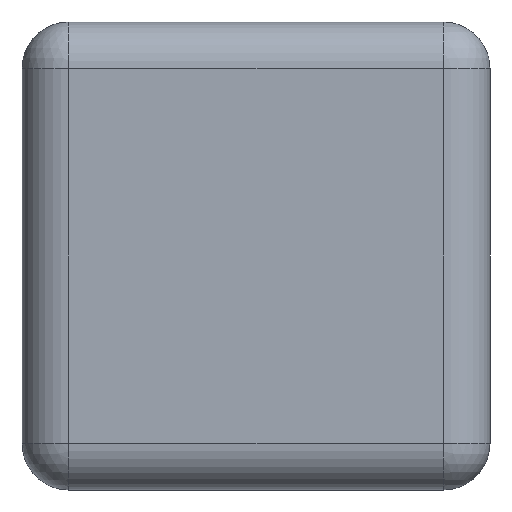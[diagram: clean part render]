
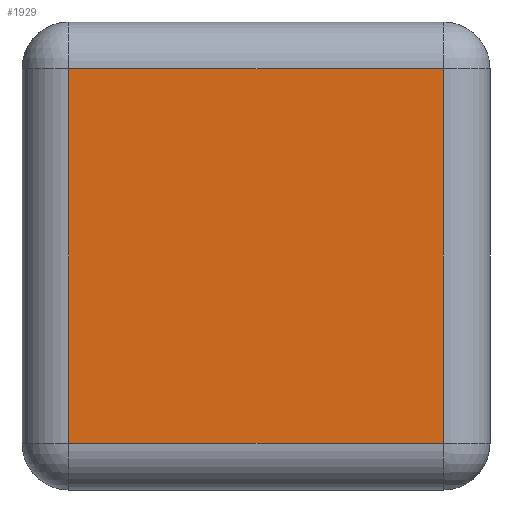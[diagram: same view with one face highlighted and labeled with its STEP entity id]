
A CAD part, left-side view. The second image highlights one B-rep face of the part: STEP entity #1929.
In plain terms, the highlighted planar face has unit normal (-1, 0, 0).
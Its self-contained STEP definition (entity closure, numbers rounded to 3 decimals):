
#1929 = ADVANCED_FACE('',(#1930),#1944,.T.);
#1930 = FACE_BOUND('',#1931,.T.);
#1931 = EDGE_LOOP('',(#1932,#1967,#1995,#2023));
#1932 = ORIENTED_EDGE('',*,*,#1933,.T.);
#1933 = EDGE_CURVE('',#1934,#1936,#1938,.T.);
#1934 = VERTEX_POINT('',#1935);
#1935 = CARTESIAN_POINT('',(-0.5,0.2,0.486));
#1936 = VERTEX_POINT('',#1937);
#1937 = CARTESIAN_POINT('',(-0.5,0.2,0.086));
#1938 = SURFACE_CURVE('',#1939,(#1943,#1955),.PCURVE_S1.);
#1939 = LINE('',#1940,#1941);
#1940 = CARTESIAN_POINT('',(-0.5,0.2,0.036));
#1941 = VECTOR('',#1942,1.);
#1942 = DIRECTION('',(0.,0.,-1.));
#1943 = PCURVE('',#1944,#1949);
#1944 = PLANE('',#1945);
#1945 = AXIS2_PLACEMENT_3D('',#1946,#1947,#1948);
#1946 = CARTESIAN_POINT('',(-0.5,-0.25,0.036));
#1947 = DIRECTION('',(-1.,0.,0.));
#1948 = DIRECTION('',(0.,0.,-1.));
#1949 = DEFINITIONAL_REPRESENTATION('',(#1950),#1954);
#1950 = LINE('',#1951,#1952);
#1951 = CARTESIAN_POINT('',(0.,-0.45));
#1952 = VECTOR('',#1953,1.);
#1953 = DIRECTION('',(1.,0.));
#1954 = ( GEOMETRIC_REPRESENTATION_CONTEXT(2) 
PARAMETRIC_REPRESENTATION_CONTEXT() REPRESENTATION_CONTEXT('2D SPACE',''
  ) );
#1955 = PCURVE('',#1956,#1961);
#1956 = CYLINDRICAL_SURFACE('',#1957,0.05);
#1957 = AXIS2_PLACEMENT_3D('',#1958,#1959,#1960);
#1958 = CARTESIAN_POINT('',(-0.45,0.2,0.536));
#1959 = DIRECTION('',(0.,0.,-1.));
#1960 = DIRECTION('',(1.,0.,0.));
#1961 = DEFINITIONAL_REPRESENTATION('',(#1962),#1966);
#1962 = LINE('',#1963,#1964);
#1963 = CARTESIAN_POINT('',(3.142,0.5));
#1964 = VECTOR('',#1965,1.);
#1965 = DIRECTION('',(0.,1.));
#1966 = ( GEOMETRIC_REPRESENTATION_CONTEXT(2) 
PARAMETRIC_REPRESENTATION_CONTEXT() REPRESENTATION_CONTEXT('2D SPACE',''
  ) );
#1967 = ORIENTED_EDGE('',*,*,#1968,.T.);
#1968 = EDGE_CURVE('',#1936,#1969,#1971,.T.);
#1969 = VERTEX_POINT('',#1970);
#1970 = CARTESIAN_POINT('',(-0.5,-0.2,0.086));
#1971 = SURFACE_CURVE('',#1972,(#1976,#1983),.PCURVE_S1.);
#1972 = LINE('',#1973,#1974);
#1973 = CARTESIAN_POINT('',(-0.5,-0.25,0.086));
#1974 = VECTOR('',#1975,1.);
#1975 = DIRECTION('',(0.,-1.,0.));
#1976 = PCURVE('',#1944,#1977);
#1977 = DEFINITIONAL_REPRESENTATION('',(#1978),#1982);
#1978 = LINE('',#1979,#1980);
#1979 = CARTESIAN_POINT('',(-0.05,0.));
#1980 = VECTOR('',#1981,1.);
#1981 = DIRECTION('',(0.,1.));
#1982 = ( GEOMETRIC_REPRESENTATION_CONTEXT(2) 
PARAMETRIC_REPRESENTATION_CONTEXT() REPRESENTATION_CONTEXT('2D SPACE',''
  ) );
#1983 = PCURVE('',#1984,#1989);
#1984 = CYLINDRICAL_SURFACE('',#1985,0.05);
#1985 = AXIS2_PLACEMENT_3D('',#1986,#1987,#1988);
#1986 = CARTESIAN_POINT('',(-0.45,-0.25,0.086));
#1987 = DIRECTION('',(0.,1.,0.));
#1988 = DIRECTION('',(-1.,0.,0.));
#1989 = DEFINITIONAL_REPRESENTATION('',(#1990),#1994);
#1990 = LINE('',#1991,#1992);
#1991 = CARTESIAN_POINT('',(6.283,0.));
#1992 = VECTOR('',#1993,1.);
#1993 = DIRECTION('',(0.,-1.));
#1994 = ( GEOMETRIC_REPRESENTATION_CONTEXT(2) 
PARAMETRIC_REPRESENTATION_CONTEXT() REPRESENTATION_CONTEXT('2D SPACE',''
  ) );
#1995 = ORIENTED_EDGE('',*,*,#1996,.T.);
#1996 = EDGE_CURVE('',#1969,#1997,#1999,.T.);
#1997 = VERTEX_POINT('',#1998);
#1998 = CARTESIAN_POINT('',(-0.5,-0.2,0.486));
#1999 = SURFACE_CURVE('',#2000,(#2004,#2011),.PCURVE_S1.);
#2000 = LINE('',#2001,#2002);
#2001 = CARTESIAN_POINT('',(-0.5,-0.2,0.036));
#2002 = VECTOR('',#2003,1.);
#2003 = DIRECTION('',(0.,0.,1.));
#2004 = PCURVE('',#1944,#2005);
#2005 = DEFINITIONAL_REPRESENTATION('',(#2006),#2010);
#2006 = LINE('',#2007,#2008);
#2007 = CARTESIAN_POINT('',(0.,-0.05));
#2008 = VECTOR('',#2009,1.);
#2009 = DIRECTION('',(-1.,0.));
#2010 = ( GEOMETRIC_REPRESENTATION_CONTEXT(2) 
PARAMETRIC_REPRESENTATION_CONTEXT() REPRESENTATION_CONTEXT('2D SPACE',''
  ) );
#2011 = PCURVE('',#2012,#2017);
#2012 = CYLINDRICAL_SURFACE('',#2013,0.05);
#2013 = AXIS2_PLACEMENT_3D('',#2014,#2015,#2016);
#2014 = CARTESIAN_POINT('',(-0.45,-0.2,0.036));
#2015 = DIRECTION('',(0.,0.,1.));
#2016 = DIRECTION('',(-1.,0.,0.));
#2017 = DEFINITIONAL_REPRESENTATION('',(#2018),#2022);
#2018 = LINE('',#2019,#2020);
#2019 = CARTESIAN_POINT('',(0.,0.));
#2020 = VECTOR('',#2021,1.);
#2021 = DIRECTION('',(0.,1.));
#2022 = ( GEOMETRIC_REPRESENTATION_CONTEXT(2) 
PARAMETRIC_REPRESENTATION_CONTEXT() REPRESENTATION_CONTEXT('2D SPACE',''
  ) );
#2023 = ORIENTED_EDGE('',*,*,#2024,.T.);
#2024 = EDGE_CURVE('',#1997,#1934,#2025,.T.);
#2025 = SURFACE_CURVE('',#2026,(#2030,#2037),.PCURVE_S1.);
#2026 = LINE('',#2027,#2028);
#2027 = CARTESIAN_POINT('',(-0.5,-0.25,0.486));
#2028 = VECTOR('',#2029,1.);
#2029 = DIRECTION('',(0.,1.,0.));
#2030 = PCURVE('',#1944,#2031);
#2031 = DEFINITIONAL_REPRESENTATION('',(#2032),#2036);
#2032 = LINE('',#2033,#2034);
#2033 = CARTESIAN_POINT('',(-0.45,0.));
#2034 = VECTOR('',#2035,1.);
#2035 = DIRECTION('',(0.,-1.));
#2036 = ( GEOMETRIC_REPRESENTATION_CONTEXT(2) 
PARAMETRIC_REPRESENTATION_CONTEXT() REPRESENTATION_CONTEXT('2D SPACE',''
  ) );
#2037 = PCURVE('',#2038,#2043);
#2038 = CYLINDRICAL_SURFACE('',#2039,0.05);
#2039 = AXIS2_PLACEMENT_3D('',#2040,#2041,#2042);
#2040 = CARTESIAN_POINT('',(-0.45,-0.25,0.486));
#2041 = DIRECTION('',(0.,1.,0.));
#2042 = DIRECTION('',(-1.,0.,0.));
#2043 = DEFINITIONAL_REPRESENTATION('',(#2044),#2048);
#2044 = LINE('',#2045,#2046);
#2045 = CARTESIAN_POINT('',(0.,0.));
#2046 = VECTOR('',#2047,1.);
#2047 = DIRECTION('',(0.,1.));
#2048 = ( GEOMETRIC_REPRESENTATION_CONTEXT(2) 
PARAMETRIC_REPRESENTATION_CONTEXT() REPRESENTATION_CONTEXT('2D SPACE',''
  ) );
